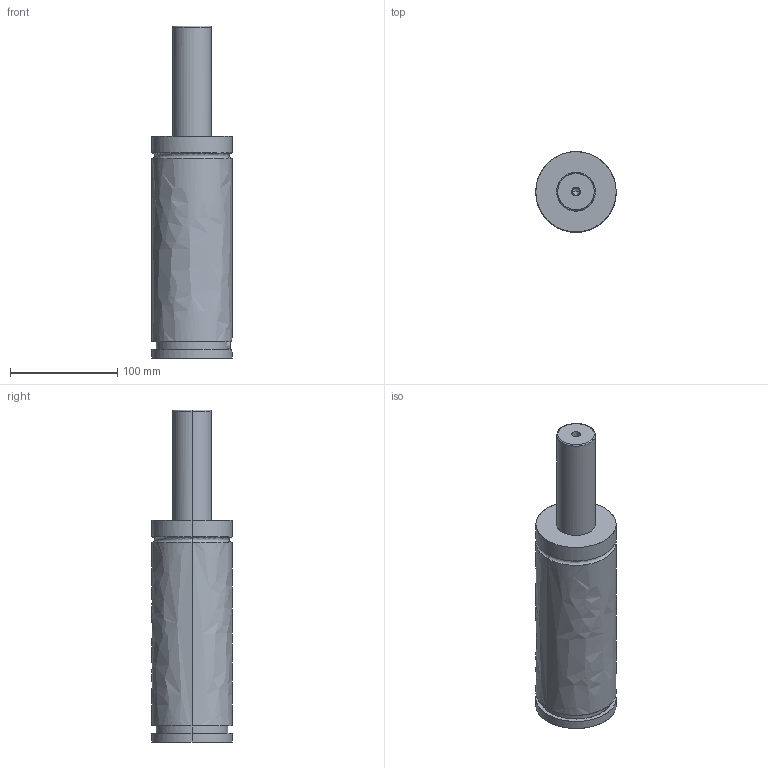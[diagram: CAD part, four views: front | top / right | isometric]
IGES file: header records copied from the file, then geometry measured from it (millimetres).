
Global section: file name: E:\UnigraphicsGraphicData\MISUMI_PRESS-PARTS\IGES\3d_gse75-100_03852_r00.igs; native system: NX V5.0; preprocessor: UGS NX IGES V5.0; author: MISUMI; date: 20110105.160800; units: millimetre
Bounding box: 75 x 75 x 310 mm (x, y, z)
Surface area: 73883 mm2 (no closed solid volume)
Topology: 0 solids, 0 shells, 75 faces, 606 edges, 604 vertices
Faces by surface type: bspline 75
